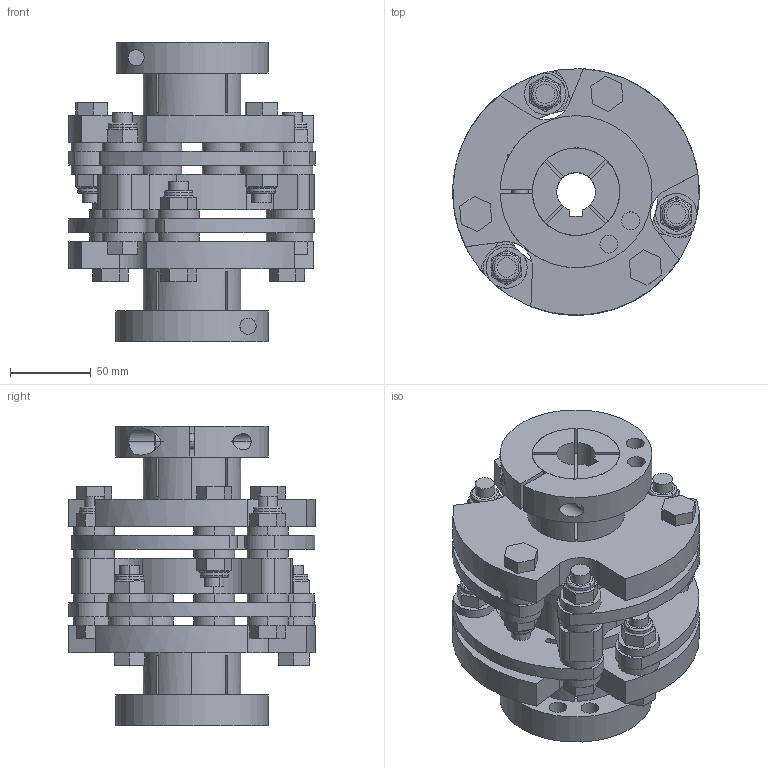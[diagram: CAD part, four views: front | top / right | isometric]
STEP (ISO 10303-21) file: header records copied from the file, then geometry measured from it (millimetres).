
FILE_DESCRIPTION((''),'2;1');
FILE_NAME('60','2024-04-11T12:54:29',('Administrator'),(''),'CREO PARAMETRIC BY PTC INC, 2019030','CREO PARAMETRIC BY PTC INC, 2019030','');
FILE_SCHEMA(('AUTOMOTIVE_DESIGN { 1 0 10303 214 1 1 1 1 }'));
Length unit declared in the file: inch
Products named in the file (1): 60
Bounding box: 152.37 x 152.37 x 185.09 mm (x, y, z)
Volume: 1284544.4 mm3; surface area: 305824.4 mm2
Topology: 1 solids, 10 shells, 637 faces, 1917 edges, 1398 vertices
Faces by surface type: plane 349, cylinder 248, torus 40
Entity records: 29183 total; most frequent: CARTESIAN_POINT 4343, DIRECTION 3949, ORIENTED_EDGE 3648, PRESENTATION_STYLE_ASSIGNMENT 2011, STYLED_ITEM 1931, CURVE_STYLE 1918, EDGE_CURVE 1824, AXIS2_PLACEMENT_3D 1472
